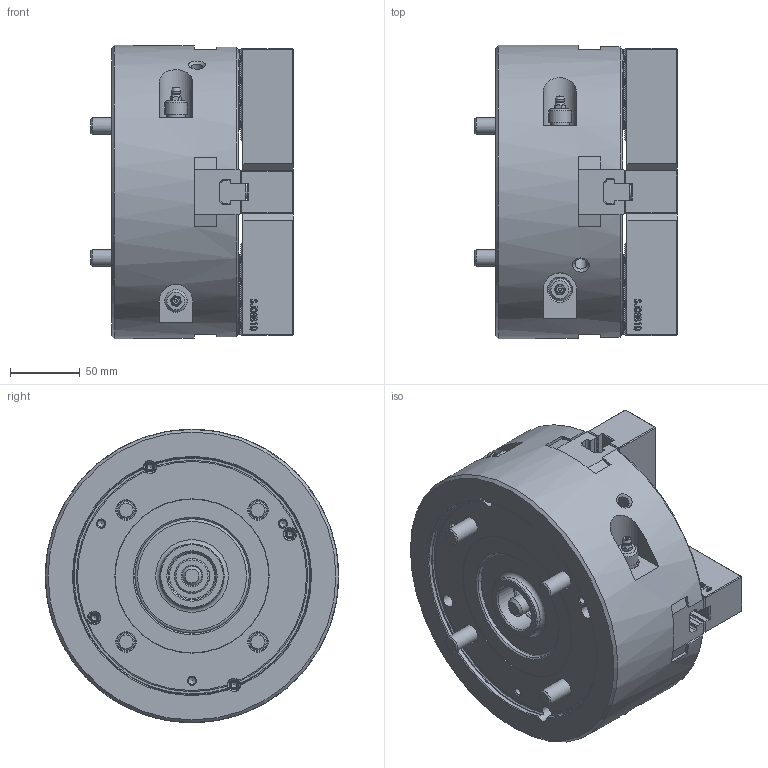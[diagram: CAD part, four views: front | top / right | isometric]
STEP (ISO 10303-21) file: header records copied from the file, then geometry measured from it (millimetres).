
FILE_DESCRIPTION (( 'STEP AP214' ), '1' );
FILE_NAME ('DT1_HW-08_OUTSIDE_VIEW_HOL.STEP', '2024-05-09T23:22:35', ( '' ), ( '' ), 'SwSTEP 2.0', 'SolidWorks 2022', '' );
FILE_SCHEMA (( 'AUTOMOTIVE_DESIGN' ));
Length unit declared in the file: millimetre
Products named in the file (11): DT1_HW-08_SOFTJAW^DT1_HW-08_ﾃﾞﾌｫﾙﾄ; DT1_HW-08_COVER^DT1_HW-08_ﾃﾞﾌｫﾙﾄ; DT1_HW08_DRAWSCREW^DT1_HW-08_ﾃﾞﾌｫﾙﾄ; DT1_HW-08_M5x10^DT1_HW-08_ﾃﾞﾌｫﾙﾄ; DT1_HW-08_DN^DT1_HW-08_ﾃﾞﾌｫﾙﾄ; DT1_HW-08_M12x90^DT1_HW-08_ﾃﾞﾌｫﾙﾄ; DT1_HW-08_BASE^DT1_HW-08_ﾃﾞﾌｫﾙﾄ; DT1_HW-08_M10x25^DT1_HW-08_ﾃﾞﾌｫﾙﾄ; DT1_HW-08_OUTSIDE_VIEW_HOL; DT1_HW-08_TNUT^DT1_HW-08_ﾃﾞﾌｫﾙﾄ; Copy of 0080010810^DT1_HW-08_ﾃﾞﾌｫﾙﾄ
Assembly tree (29 placements, depth 2):
  DT1_HW-08_OUTSIDE_VIEW_HOL
    DT1_HW-08_SOFTJAW^DT1_HW-08_ﾃﾞﾌｫﾙﾄ  x4
    DT1_HW-08_TNUT^DT1_HW-08_ﾃﾞﾌｫﾙﾄ  x4
    DT1_HW-08_COVER^DT1_HW-08_ﾃﾞﾌｫﾙﾄ
    DT1_HW08_DRAWSCREW^DT1_HW-08_ﾃﾞﾌｫﾙﾄ
    DT1_HW-08_BASE^DT1_HW-08_ﾃﾞﾌｫﾙﾄ
    DT1_HW-08_DN^DT1_HW-08_ﾃﾞﾌｫﾙﾄ
    DT1_HW-08_M12x90^DT1_HW-08_ﾃﾞﾌｫﾙﾄ  x4
    DT1_HW-08_M10x25^DT1_HW-08_ﾃﾞﾌｫﾙﾄ  x8
    DT1_HW-08_M5x10^DT1_HW-08_ﾃﾞﾌｫﾙﾄ  x4
    Copy of 0080010810^DT1_HW-08_ﾃﾞﾌｫﾙﾄ
Bounding box: 145 x 210 x 210 mm (x, y, z)
Volume: 3266574.3 mm3; surface area: 340877.3 mm2
Topology: 29 solids, 37 shells, 4962 faces, 13976 edges, 9245 vertices
Faces by surface type: plane 3206, cylinder 891, bspline 560, cone 264, torus 37, sphere 4
Full cylindrical faces by diameter (mm): 2 x4, 4.2 x4, 5 x7, 5.5 x4, 6 x1, 6.8 x4, 8 x1, 8.5 x2, 8.6 x8, 9.5 x8, 10 x12, 11 x8, 12 x5, 12.2 x1, 13.5 x8, 14 x2, 16 x4, 16.1 x4, 16.27 x8, 17 x8, 18.27 x4, 20 x4, 21 x2, 25 x1, 32.376 x1, 34 x1, 35 x2, 46 x1, 82 x1, 110 x1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
Entity records: 104997 total; most frequent: CARTESIAN_POINT 31508, ORIENTED_EDGE 16504, DIRECTION 12829, EDGE_CURVE 8252, VECTOR 5997, LINE 5997, VERTEX_POINT 5555, AXIS2_PLACEMENT_3D 3416
